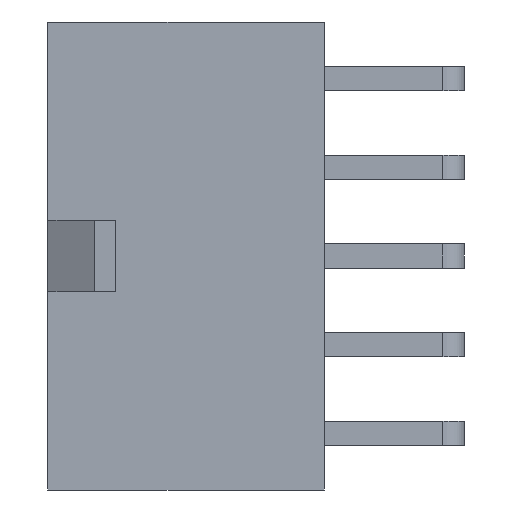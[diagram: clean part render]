
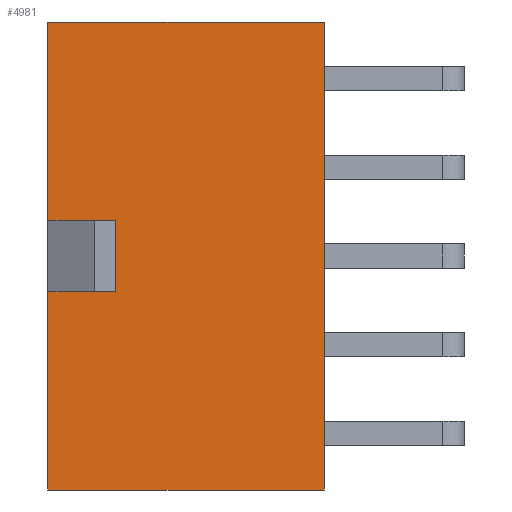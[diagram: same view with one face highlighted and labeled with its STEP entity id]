
A CAD part, left-side view. The second image highlights one B-rep face of the part: STEP entity #4981.
In plain terms, the highlighted planar face has unit normal (-1, 0, 0).
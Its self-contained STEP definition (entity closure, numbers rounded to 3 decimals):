
#119=CARTESIAN_POINT('Vertex',(0.,0.,11.1)) ;
#122=CARTESIAN_POINT('Line Origine',(0.,0.,0.)) ;
#126=CARTESIAN_POINT('Vertex',(0.,0.,-11.1)) ;
#544=CARTESIAN_POINT('Vertex',(0.,13.1,-11.1)) ;
#547=CARTESIAN_POINT('Line Origine',(0.,13.1,-6.4)) ;
#551=CARTESIAN_POINT('Vertex',(0.,13.1,-1.7)) ;
#558=CARTESIAN_POINT('Vertex',(0.,13.1,1.7)) ;
#561=CARTESIAN_POINT('Line Origine',(0.,13.1,6.4)) ;
#565=CARTESIAN_POINT('Vertex',(0.,13.1,11.1)) ;
#1342=CARTESIAN_POINT('Line Origine',(0.,6.55,-11.1)) ;
#2925=CARTESIAN_POINT('Line Origine',(0.,11.6,-1.7)) ;
#2929=CARTESIAN_POINT('Vertex',(0.,10.1,-1.7)) ;
#3538=CARTESIAN_POINT('Line Origine',(0.,10.1,0.)) ;
#3542=CARTESIAN_POINT('Vertex',(0.,10.1,1.7)) ;
#4147=CARTESIAN_POINT('Line Origine',(0.,11.6,1.7)) ;
#4954=CARTESIAN_POINT('Line Origine',(0.,6.55,11.1)) ;
#4966=CARTESIAN_POINT('Axis2P3D Location',(0.,13.1,0.)) ;
#123=DIRECTION('Vector Direction',(0.,0.,1.)) ;
#548=DIRECTION('Vector Direction',(0.,0.,1.)) ;
#562=DIRECTION('Vector Direction',(0.,0.,1.)) ;
#1343=DIRECTION('Vector Direction',(0.,-1.,0.)) ;
#2926=DIRECTION('Vector Direction',(0.,1.,0.)) ;
#3539=DIRECTION('Vector Direction',(0.,0.,1.)) ;
#4148=DIRECTION('Vector Direction',(0.,1.,0.)) ;
#4955=DIRECTION('Vector Direction',(0.,-1.,0.)) ;
#4967=DIRECTION('Axis2P3D Direction',(-1.,0.,0.)) ;
#4968=DIRECTION('Axis2P3D XDirection',(0.,-1.,0.)) ;
#4969=AXIS2_PLACEMENT_3D('Plane Axis2P3D',#4966,#4967,#4968) ;
#4972=ORIENTED_EDGE('',*,*,#553,.F.) ;
#4973=ORIENTED_EDGE('',*,*,#1346,.T.) ;
#4974=ORIENTED_EDGE('',*,*,#128,.T.) ;
#4975=ORIENTED_EDGE('',*,*,#4958,.F.) ;
#4976=ORIENTED_EDGE('',*,*,#567,.F.) ;
#4977=ORIENTED_EDGE('',*,*,#4151,.F.) ;
#4978=ORIENTED_EDGE('',*,*,#3544,.F.) ;
#4979=ORIENTED_EDGE('',*,*,#2931,.T.) ;
#124=VECTOR('Line Direction',#123,1.) ;
#549=VECTOR('Line Direction',#548,1.) ;
#563=VECTOR('Line Direction',#562,1.) ;
#1344=VECTOR('Line Direction',#1343,1.) ;
#2927=VECTOR('Line Direction',#2926,1.) ;
#3540=VECTOR('Line Direction',#3539,1.) ;
#4149=VECTOR('Line Direction',#4148,1.) ;
#4956=VECTOR('Line Direction',#4955,1.) ;
#4981=ADVANCED_FACE('\X2\96F64EF651E04F554F53\X0\',(#4980),#4970,.T.) ;
#128=EDGE_CURVE('',#127,#120,#125,.T.) ;
#553=EDGE_CURVE('',#545,#552,#550,.T.) ;
#567=EDGE_CURVE('',#559,#566,#564,.T.) ;
#1346=EDGE_CURVE('',#545,#127,#1345,.T.) ;
#2931=EDGE_CURVE('',#2930,#552,#2928,.T.) ;
#3544=EDGE_CURVE('',#2930,#3543,#3541,.T.) ;
#4151=EDGE_CURVE('',#3543,#559,#4150,.T.) ;
#4958=EDGE_CURVE('',#566,#120,#4957,.T.) ;
#4971=EDGE_LOOP('',(#4972,#4973,#4974,#4975,#4976,#4977,#4978,#4979)) ;
#4980=FACE_OUTER_BOUND('',#4971,.T.) ;
#125=LINE('Line',#122,#124) ;
#550=LINE('Line',#547,#549) ;
#564=LINE('Line',#561,#563) ;
#1345=LINE('Line',#1342,#1344) ;
#2928=LINE('Line',#2925,#2927) ;
#3541=LINE('Line',#3538,#3540) ;
#4150=LINE('Line',#4147,#4149) ;
#4957=LINE('Line',#4954,#4956) ;
#4970=PLANE('Plane',#4969) ;
#120=VERTEX_POINT('',#119) ;
#127=VERTEX_POINT('',#126) ;
#545=VERTEX_POINT('',#544) ;
#552=VERTEX_POINT('',#551) ;
#559=VERTEX_POINT('',#558) ;
#566=VERTEX_POINT('',#565) ;
#2930=VERTEX_POINT('',#2929) ;
#3543=VERTEX_POINT('',#3542) ;
